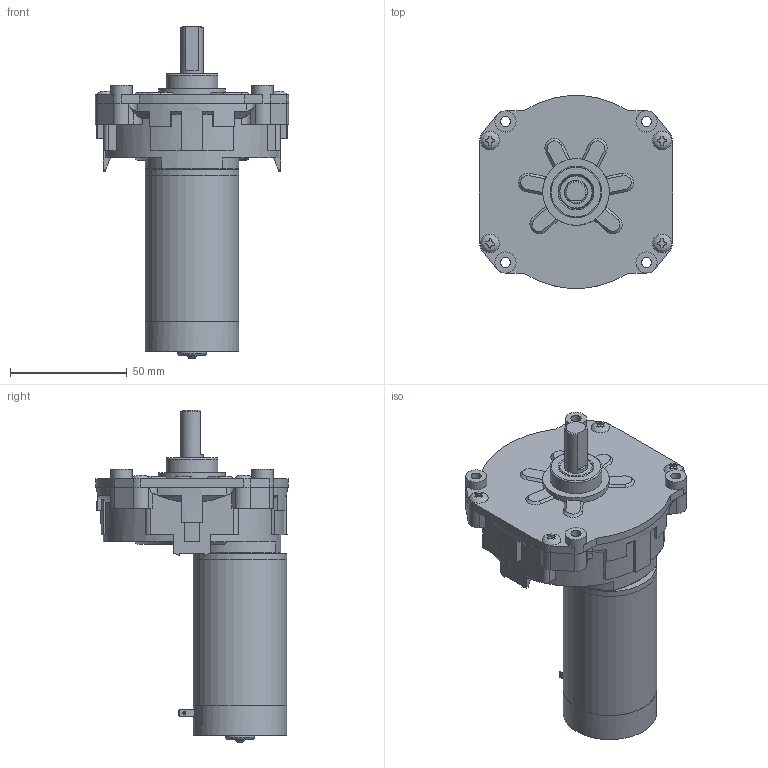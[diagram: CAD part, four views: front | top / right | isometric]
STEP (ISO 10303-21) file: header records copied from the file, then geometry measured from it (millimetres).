
FILE_DESCRIPTION(/* description */ (''),/* implementation_level */ '2;1');
FILE_NAME(/* name */ 'C:\Users\byjeong\Desktop\3D도면\SP46BT.stp',/* time_stamp */ '2015-03-31T15:48:57+09:00',/* author */ ('byjeong'),/* organization */ (''),/* preprocessor_version */ 'ST-DEVELOPER v15.6',/* originating_system */ 'Autodesk Inventor 2015',/* authorisation */ '');
FILE_SCHEMA (('AUTOMOTIVE_DESIGN { 1 0 10303 214 3 1 1 }'));
Length unit declared in the file: millimetre
Products named in the file (11): SP BOX ASSY; DC SP BOX; RM4TYPE_BRUSH_BRAKET_TERMINAL; RM4TYPE_REAR_HOUSING; REAR_HOUSING__ASS'Y_TERMINAL; RM4TYPE_FRONT_HOUSING_; RM4TYPE_PIPE_HOUSING_pi40XL62.4; RM46TYPE_SHAFT; AS 1427 Z - 미터 M3.5 x 5; RM46ㅁBT; SP BOX ASSY.ipt
Bounding box: 82.6 x 82.32 x 141.97 mm (x, y, z)
Volume: 101473.7 mm3; surface area: 73178.1 mm2
Topology: 10 solids, 11 shells, 735 faces, 1919 edges, 1253 vertices
Faces by surface type: plane 380, cylinder 192, cone 101, torus 32, bspline 28, sphere 2
Full cylindrical faces by diameter (mm): 1.2 x2, 2.7 x4, 2.8 x4, 3 x14, 3.05 x2, 3.132 x2, 3.4 x2, 3.5 x4, 3.6 x4, 3.7 x2, 3.969 x1, 4 x5, 4.3 x8, 4.5 x4, 5 x2, 6 x1, 6.1 x2, 6.5 x1, 6.65 x1, 9 x4, 9.5 x2, 9.54 x1, 10.5 x1, 12.5 x1, 12.7 x3, 14 x1, 14.3 x2, 14.5 x2, 16.6 x1, 17.6 x1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
Entity records: 22503 total; most frequent: CARTESIAN_POINT 5912, DIRECTION 3361, ORIENTED_EDGE 3296, EDGE_CURVE 1648, AXIS2_PLACEMENT_3D 1326, VERTEX_POINT 1154, EDGE_LOOP 942, LINE 709
